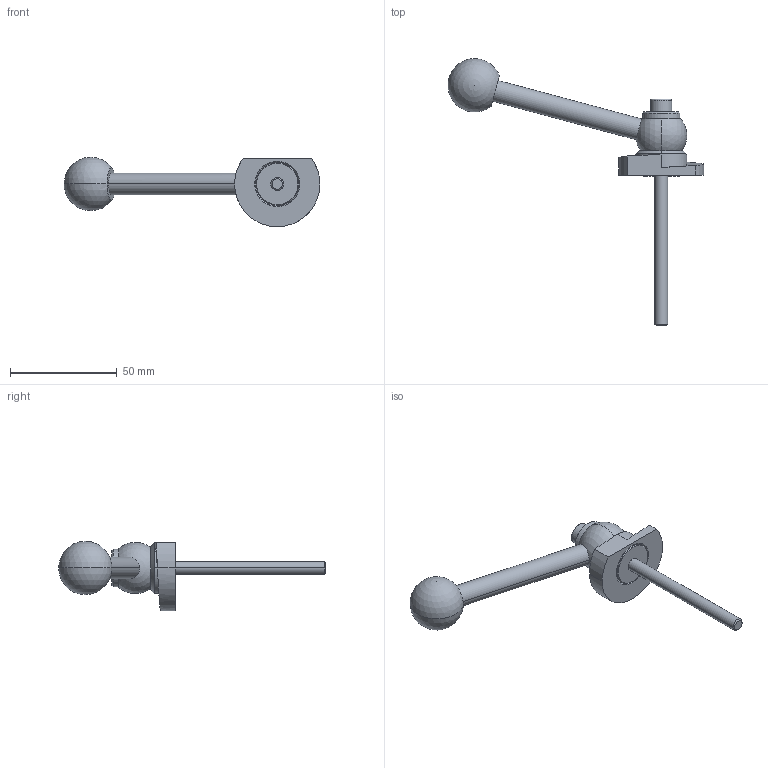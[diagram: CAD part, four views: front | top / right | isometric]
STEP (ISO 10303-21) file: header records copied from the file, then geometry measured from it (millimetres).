
FILE_DESCRIPTION (( 'STEP AP214' ), '1' );
FILE_NAME ('918.1-40-KVS-R-70.step', '2024-05-15T13:00:37', ( '' ), ( '' ), 'SwSTEP 2.0', 'SolidWorks 2022', '' );
FILE_SCHEMA (( 'AUTOMOTIVE_DESIGN' ));
Length unit declared in the file: millimetre
Products named in the file (1): 918.1-40-KVS-R-70
Bounding box: 119.95 x 124.99 x 32.5 mm (x, y, z)
Volume: 31729.4 mm3; surface area: 12155.5 mm2
Topology: 1 solids, 1 shells, 64 faces, 147 edges, 93 vertices
Faces by surface type: cylinder 22, plane 20, cone 14, sphere 4, torus 2, bspline 2
Entity records: 2045 total; most frequent: CARTESIAN_POINT 590, DIRECTION 321, ORIENTED_EDGE 274, EDGE_CURVE 137, AXIS2_PLACEMENT_3D 131, VERTEX_POINT 87, EDGE_LOOP 76, CIRCLE 68
